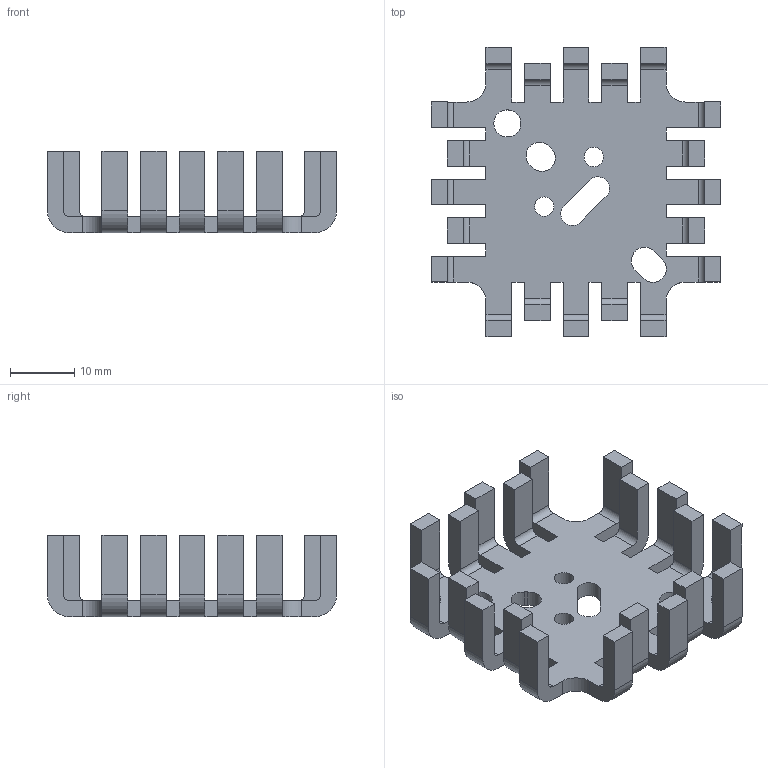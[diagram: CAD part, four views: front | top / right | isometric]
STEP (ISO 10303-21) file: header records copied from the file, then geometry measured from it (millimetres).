
FILE_DESCRIPTION((''),'2;1');
FILE_NAME('O:\Internetdaten\f.cool\Kapitel C\FK\FK - STEP\FK_202_SA_CB.stp','2014-02-26T13:26:26',('lochen'),(''),'Autodesk Inventor 2012','Autodesk Inventor 2012','');
FILE_SCHEMA(('AUTOMOTIVE_DESIGN { 1 0 10303 214 1 1 1 1 }'));
Length unit declared in the file: millimetre
Products named in the file (1): FK_202_SA_CB
Bounding box: 45 x 45 x 12.7 mm (x, y, z)
Volume: 5086.9 mm3; surface area: 6224 mm2
Topology: 1 solids, 1 shells, 177 faces, 525 edges, 350 vertices
Faces by surface type: plane 124, cylinder 53
Full cylindrical faces by diameter (mm): 3 x2, 4.2 x1
Entity records: 5947 total; most frequent: CARTESIAN_POINT 1050, ORIENTED_EDGE 1044, DIRECTION 984, EDGE_CURVE 522, VECTOR 416, LINE 416, VERTEX_POINT 350, AXIS2_PLACEMENT_3D 284
